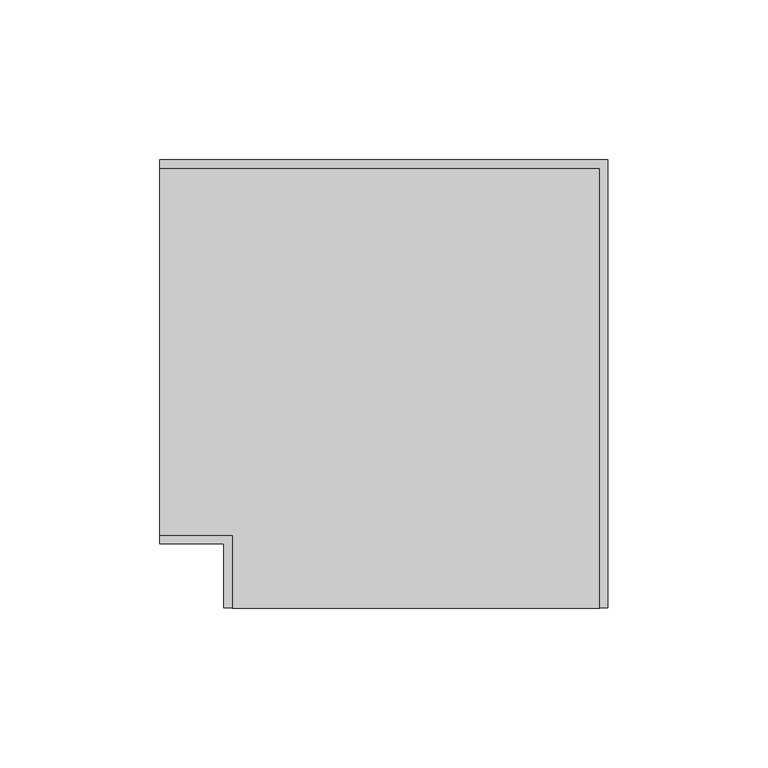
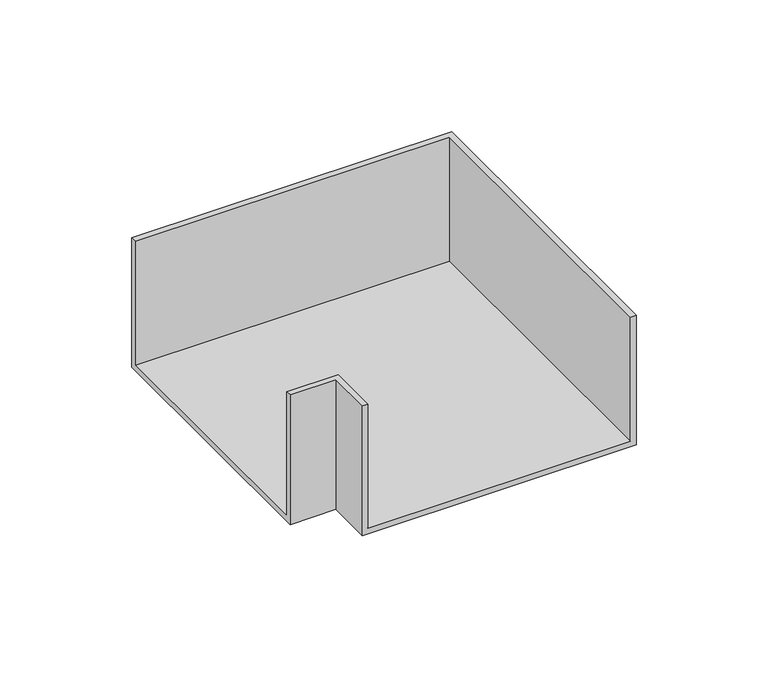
"""IFC4 building model written with IfcOpenShell, lengths in millimetres: cable carrier fitting geometry, КНС_УголПлоский NPAN_ILC_DKC : Угол плоский NPAN_DKC."""

import ifcopenshell
import ifcopenshell.guid

model = None  # the IFC model being written
_history = None  # IfcOwnerHistory: only IFC2X3 demands one
_inside = {}  # id of a spatial element -> (the spatial element, [elements in it])
_under = {}  # id of a project, library or spatial element -> (it, [spatial elements below it])
_declared = {}  # id of a project -> (the project, [libraries it declares])
_typed = {}  # id of a type object -> (the type object, [elements of that type])
_made_of = {}  # id of a material, layer set ... -> (it, [elements and type objects made of it])


def new_model(schema):
    """Start an empty IFC model of exactly this schema.

    Asked for "IFC4X3", IfcOpenShell would pick the latest addendum, in which some entities
    have other attributes; the version numbers below select the first issue.
    IFC2X3 requires an IfcOwnerHistory on every rooted entity: one is made here for all.
    """
    global model, _history
    if schema == "IFC4X3":
        model = ifcopenshell.file(schema_version=(4, 3, 0, 0))
    else:
        model = ifcopenshell.file(schema=schema)
    _inside.clear()
    _under.clear()
    _declared.clear()
    _typed.clear()
    _made_of.clear()
    _history = None
    if model.schema == "IFC2X3":
        org = make("IfcOrganization", Name="unknown")
        user = make(
            "IfcPersonAndOrganization",
            ThePerson=make("IfcPerson", FamilyName="unknown"),
            TheOrganization=org,
        )
        app = make(
            "IfcApplication",
            ApplicationDeveloper=org,
            Version="unknown",
            ApplicationFullName="unknown",
            ApplicationIdentifier="unknown",
        )
        _history = make(
            "IfcOwnerHistory",
            OwningUser=user,
            OwningApplication=app,
            ChangeAction="ADDED",
            CreationDate=0,
        )
    return model


def make(cls, **values):
    """One entity of the class cls with the attributes given. An attribute that is None is left unset."""
    return model.create_entity(
        cls, **{name: value for name, value in values.items() if value is not None}
    )


def rooted(cls, **values):
    """An entity with a GlobalId (a new one), such as an element, a storey or a relation."""
    return make(cls, GlobalId=ifcopenshell.guid.new(), OwnerHistory=_history, **values)


def si_unit(unit_type, name, prefix=None):
    """IfcSIUnit, for example si_unit("LENGTHUNIT", "METRE", prefix="MILLI")."""
    return make("IfcSIUnit", UnitType=unit_type, Prefix=prefix, Name=name)


def assignment(units):
    """IfcUnitAssignment: the units of a project."""
    return None if units is None else make("IfcUnitAssignment", Units=units)


def point(xyz):
    """IfcCartesianPoint."""
    return None if xyz is None else make("IfcCartesianPoint", Coordinates=xyz)


def direction(xyz):
    """IfcDirection."""
    return None if xyz is None else make("IfcDirection", DirectionRatios=xyz)


def frame(location, z_axis=None, x_axis=None):
    """IfcAxis2Placement3D, a coordinate frame: its origin and axes. An axis left out is left unset."""
    return make(
        "IfcAxis2Placement3D",
        Location=point(location),
        Axis=direction(z_axis),
        RefDirection=direction(x_axis),
    )


def origin():
    """The frame at (0, 0, 0) with its axes left unset."""
    return frame((0.0, 0.0, 0.0))


def place(relative_to, where):
    """IfcLocalPlacement: puts the frame where relative to a parent placement (None: the world)."""
    return make(
        "IfcLocalPlacement", PlacementRelTo=relative_to, RelativePlacement=where
    )


def context(
    kind, dimensions, precision=None, world=None, true_north=None, identifier=None
):
    """IfcGeometricRepresentationContext, for example the 3D "Model" context."""
    return make(
        "IfcGeometricRepresentationContext",
        ContextIdentifier=identifier,
        ContextType=kind,
        CoordinateSpaceDimension=dimensions,
        Precision=precision,
        WorldCoordinateSystem=world,
        TrueNorth=true_north,
    )


def project(units=None, contexts=None):
    """IfcProject with its units and contexts."""
    return rooted(
        "IfcProject",
        Name="project",
        RepresentationContexts=contexts,
        UnitsInContext=assignment(units),
    )


def spatial(cls, under=None, at=None, **own):
    """A site, building, storey or space (cls), placed at a placement, below another one or the project."""
    s = rooted(cls, ObjectPlacement=at, **own)
    if under is not None:
        _under.setdefault(under.id(), (under, []))[1].append(s)
    return s


def faces_of(points, faces, orient=None, outer=None):
    """IfcFace entities. A face is a list of loops; a loop is a list of indices into points, from 0.

    orient and outer hold one flag for each loop. By default every Orientation is true, the
    first loop of a face is its IfcFaceOuterBound and the others are IfcFaceBound.
    """
    made = []
    for i, loops in enumerate(faces):
        bounds = []
        for j, loop in enumerate(loops):
            is_outer = j == 0 if outer is None else outer[i][j]
            bounds.append(
                make(
                    "IfcFaceOuterBound" if is_outer else "IfcFaceBound",
                    Bound=make("IfcPolyLoop", Polygon=[points[k] for k in loop]),
                    Orientation=True if orient is None else orient[i][j],
                )
            )
        made.append(make("IfcFace", Bounds=bounds))
    return made


def faceted_brep(points, faces, orient=None, outer=None, voids=None):
    """IfcFacetedBrep: a solid bounded by flat faces; with voids (closed shells), ...WithVoids."""
    shared = [point(p) for p in points]
    hull = make("IfcClosedShell", CfsFaces=faces_of(shared, faces, orient, outer))
    if voids is None:
        return make("IfcFacetedBrep", Outer=hull)
    return make(
        "IfcFacetedBrepWithVoids",
        Outer=hull,
        Voids=[
            make(cls, CfsFaces=faces_of(shared, fs, o, b)) for cls, fs, o, b in voids
        ],
    )


def shape(context_of_items, identifier, shape_type, items):
    """IfcShapeRepresentation: the items that make up one representation, for example the "Body"."""
    return make(
        "IfcShapeRepresentation",
        ContextOfItems=context_of_items,
        RepresentationIdentifier=identifier,
        RepresentationType=shape_type,
        Items=items,
    )


def source(mapping_origin, context_of_items, identifier, shape_type, items):
    """IfcRepresentationMap: a shape defined once, which mapped items show again and again."""
    return make(
        "IfcRepresentationMap",
        MappingOrigin=mapping_origin,
        MappedRepresentation=shape(context_of_items, identifier, shape_type, items),
    )


def transform(
    local_origin,
    x_axis=None,
    y_axis=None,
    z_axis=None,
    scale=None,
    scale2=None,
    scale3=None,
    uniform=True,
):
    """IfcCartesianTransformationOperator3D, or its non-uniform kind. x_axis, y_axis, z_axis: its Axis1, 2, 3."""
    if uniform:
        return make(
            "IfcCartesianTransformationOperator3D",
            Axis1=direction(x_axis),
            Axis2=direction(y_axis),
            LocalOrigin=point(local_origin),
            Scale=scale,
            Axis3=direction(z_axis),
        )
    return make(
        "IfcCartesianTransformationOperator3DnonUniform",
        Axis1=direction(x_axis),
        Axis2=direction(y_axis),
        LocalOrigin=point(local_origin),
        Scale=scale,
        Axis3=direction(z_axis),
        Scale2=scale2,
        Scale3=scale3,
    )


def mapped(mapping_source, mapping_target):
    """IfcMappedItem: shows the shape of a source again, moved by a transform."""
    return make(
        "IfcMappedItem", MappingSource=mapping_source, MappingTarget=mapping_target
    )


def made_of(thing, what):
    """Note that an element or type object is made of a material, layer set ...; save() writes the relation."""
    if what is not None:
        _made_of.setdefault(what.id(), (what, []))[1].append(thing)
    return thing


def element(
    cls,
    number,
    at=None,
    inside=None,
    cuts=None,
    type_object=None,
    material=None,
    context=None,
    identifier="Body",
    shape_type=None,
    held_by="IfcProductDefinitionShape",
    body=None,
    shapes=None,
    **own,
):
    """One element of the class cls, such as IfcWall. Its Tag is "e" and its number.

    at: its placement. inside: the storey or other place that contains it. cuts: it is an
    opening in that element (IfcRelVoidsElement). A single representation is given by context,
    identifier, shape_type and body (its items); several are given by shapes. held_by: the class
    of the entity that holds the representations. save() writes the other relations.
    """
    e = rooted(cls, Tag="e%d" % number, ObjectPlacement=at, **own)
    if body is not None:
        shapes = [shape(context, identifier, shape_type, body)]
    if shapes is not None:
        e.Representation = make(held_by, Representations=shapes)
    if inside is not None:
        _inside.setdefault(inside.id(), (inside, []))[1].append(e)
    if cuts is not None:
        rooted(
            "IfcRelVoidsElement", RelatingBuildingElement=cuts, RelatedOpeningElement=e
        )
    if type_object is not None:
        _typed.setdefault(type_object.id(), (type_object, []))[1].append(e)
    return made_of(e, material)


def aggregate(whole, parts):
    """IfcRelAggregates: a whole, such as a stair, and the parts it consists of."""
    return rooted("IfcRelAggregates", RelatingObject=whole, RelatedObjects=parts)


def save(model, path):
    """Write the relations noted so far, then the file.

    IfcRelAggregates (storeys below a building ...), IfcRelContainedInSpatialStructure (elements
    in a storey), IfcRelDefinesByType, IfcRelAssociatesMaterial and IfcRelDeclares: one each for
    every whole, place, type object, material and project.
    """
    for whole, parts in _under.values():
        aggregate(whole, parts)
    for where, things in _inside.values():
        rooted(
            "IfcRelContainedInSpatialStructure",
            RelatedElements=things,
            RelatingStructure=where,
        )
    for kind, things in _typed.values():
        rooted("IfcRelDefinesByType", RelatedObjects=things, RelatingType=kind)
    for what, things in _made_of.values():
        rooted("IfcRelAssociatesMaterial", RelatedObjects=things, RelatingMaterial=what)
    for by, libraries in _declared.values():
        rooted("IfcRelDeclares", RelatingContext=by, RelatedDefinitions=libraries)
    model.write(path)


def cable_carrier_fitting_7613269a(model_context):
    return source(origin(), model_context, "Body", "Brep", [
        faceted_brep([(-80.0, -60.0, -30.0), (-80.0, -60.0, 30.0), (-80.0, -57.46, 30.0), (-80.0, -57.46, -27.46), (-80.0, 57.46, -27.46), (-80.0, 57.46, 30.0), (-80.0, 60.0, 30.0), (-80.0, 60.0, -30.0), (60.0, 60.0, -30.0), (60.0, -80.0, -30.0), (-60.0, -80.0, -30.0), (-60.0, -60.0, -30.0), (60.0, 60.0, 30.0), (57.46, 57.46, 30.0), (57.46, -80.0, 30.0), (60.0, -80.0, 30.0), (57.46, 57.46, -27.46), (-57.46, -57.46, -27.46), (-57.46, -80.0, -27.46), (57.46, -80.0, -27.46), (-57.46, -57.46, 30.0), (-60.0, -60.0, 30.0), (-60.0, -80.0, 30.0), (-57.46, -80.0, 30.0)], [[[0, 1, 2, 3, 4, 5, 6, 7]], [[7, 8, 9, 10, 11, 0]], [[6, 12, 8, 7]], [[5, 13, 14, 15, 12, 6]], [[4, 16, 13, 5]], [[3, 17, 18, 19, 16, 4]], [[2, 20, 17, 3]], [[1, 21, 22, 23, 20, 2]], [[0, 11, 21, 1]], [[10, 9, 15, 14, 19, 18, 23, 22]], [[12, 15, 9, 8]], [[16, 19, 14, 13]], [[20, 23, 18, 17]], [[11, 10, 22, 21]]]),
    ])


if __name__ == "__main__":
    model = new_model("IFC4")
    model_context = context("Model", 3, world=origin())
    ifc_project = project(units=[si_unit("LENGTHUNIT", "METRE", prefix="MILLI")], contexts=[model_context])
    site = spatial("IfcSite", under=ifc_project)
    building = spatial("IfcBuilding", under=site)
    placement = place(None, origin())
    cable_carrier_fitting_shape = cable_carrier_fitting_7613269a(model_context)
    element("IfcCableCarrierFitting", 1, ObjectType="КНС_УголПлоский NPAN_ILC_DKC : Угол плоский NPAN_DKC", at=placement, inside=building, context=model_context, shape_type="MappedRepresentation", body=[
        mapped(cable_carrier_fitting_shape, transform((0.0, 0.0, 0.0), x_axis=(1.0, 0.0, 0.0), y_axis=(0.0, 1.0, 0.0), z_axis=(0.0, 0.0, 1.0))),
    ])
    save(model, "model.ifc")
